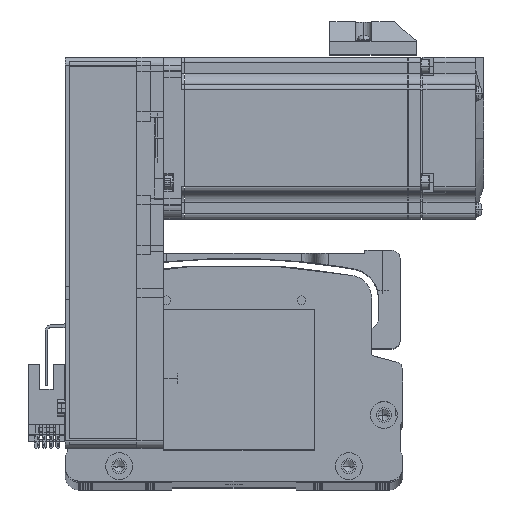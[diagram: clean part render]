
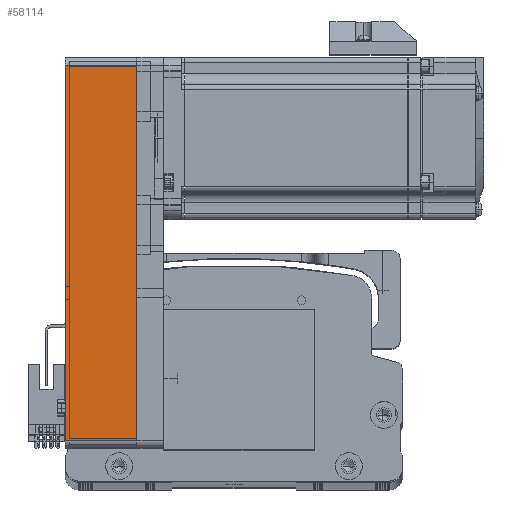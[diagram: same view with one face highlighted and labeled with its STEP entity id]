
A CAD part, top view. The second image highlights one B-rep face of the part: STEP entity #58114.
In plain terms, the highlighted planar face has unit normal (0, 0, 1) as drawn and (0, -1, 0) by its records, which use the part's own axes.
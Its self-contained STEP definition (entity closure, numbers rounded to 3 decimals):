
#2024 = CARTESIAN_POINT ( 'NONE',  ( 72.5, -30., 26.5 ) ) ;
#2448 = CARTESIAN_POINT ( 'NONE',  ( -69.5, -30., 26.5 ) ) ;
#3329 = ORIENTED_EDGE ( 'NONE', *, *, #5356, .T. ) ;
#4152 = CARTESIAN_POINT ( 'NONE',  ( 72.5, -30., 0. ) ) ;
#5356 = EDGE_CURVE ( 'NONE', #36766, #60792, #70389, .T. ) ;
#9293 = DIRECTION ( 'NONE',  ( 0., 0., -1. ) ) ;
#11367 = EDGE_LOOP ( 'NONE', ( #50068, #3329, #66763, #81521 ) ) ;
#13462 = LINE ( 'NONE', #2024, #65609 ) ;
#17008 = DIRECTION ( 'NONE',  ( 0., 1., 0. ) ) ;
#17599 = CARTESIAN_POINT ( 'NONE',  ( 69.5, -30., 0. ) ) ;
#21909 = CARTESIAN_POINT ( 'NONE',  ( -69.5, -30., 0. ) ) ;
#29426 = DIRECTION ( 'NONE',  ( 1., 0., 0. ) ) ;
#31935 = FACE_OUTER_BOUND ( 'NONE', #11367, .T. ) ;
#34017 = CARTESIAN_POINT ( 'NONE',  ( 69.5, -30., 26.5 ) ) ;
#34487 = LINE ( 'NONE', #2448, #68501 ) ;
#36766 = VERTEX_POINT ( 'NONE', #17599 ) ;
#38825 = VERTEX_POINT ( 'NONE', #21909 ) ;
#40007 = CARTESIAN_POINT ( 'NONE',  ( -69.5, -30., 26.5 ) ) ;
#43326 = EDGE_CURVE ( 'NONE', #38825, #36766, #62215, .T. ) ;
#43347 = CARTESIAN_POINT ( 'NONE',  ( 69.5, -30., 26.5 ) ) ;
#44146 = VECTOR ( 'NONE', #51743, 1000. ) ;
#50068 = ORIENTED_EDGE ( 'NONE', *, *, #43326, .T. ) ;
#51743 = DIRECTION ( 'NONE',  ( 1., 0., 0. ) ) ;
#52274 = VECTOR ( 'NONE', #75045, 1000. ) ;
#52277 = VERTEX_POINT ( 'NONE', #40007 ) ;
#57740 = CARTESIAN_POINT ( 'NONE',  ( 72.5, -30., 26.5 ) ) ;
#58114 = ADVANCED_FACE ( 'NONE', ( #31935 ), #64310, .F. ) ;
#60792 = VERTEX_POINT ( 'NONE', #43347 ) ;
#62215 = LINE ( 'NONE', #4152, #44146 ) ;
#63498 = AXIS2_PLACEMENT_3D ( 'NONE', #57740, #17008, #64592 ) ;
#64310 = PLANE ( 'NONE',  #63498 ) ;
#64592 = DIRECTION ( 'NONE',  ( -1., 0., 0. ) ) ;
#65609 = VECTOR ( 'NONE', #29426, 1000. ) ;
#66763 = ORIENTED_EDGE ( 'NONE', *, *, #69365, .F. ) ;
#68501 = VECTOR ( 'NONE', #9293, 1000. ) ;
#69365 = EDGE_CURVE ( 'NONE', #52277, #60792, #13462, .T. ) ;
#70389 = LINE ( 'NONE', #34017, #52274 ) ;
#70447 = EDGE_CURVE ( 'NONE', #52277, #38825, #34487, .T. ) ;
#75045 = DIRECTION ( 'NONE',  ( 0., 0., 1. ) ) ;
#81521 = ORIENTED_EDGE ( 'NONE', *, *, #70447, .T. ) ;
